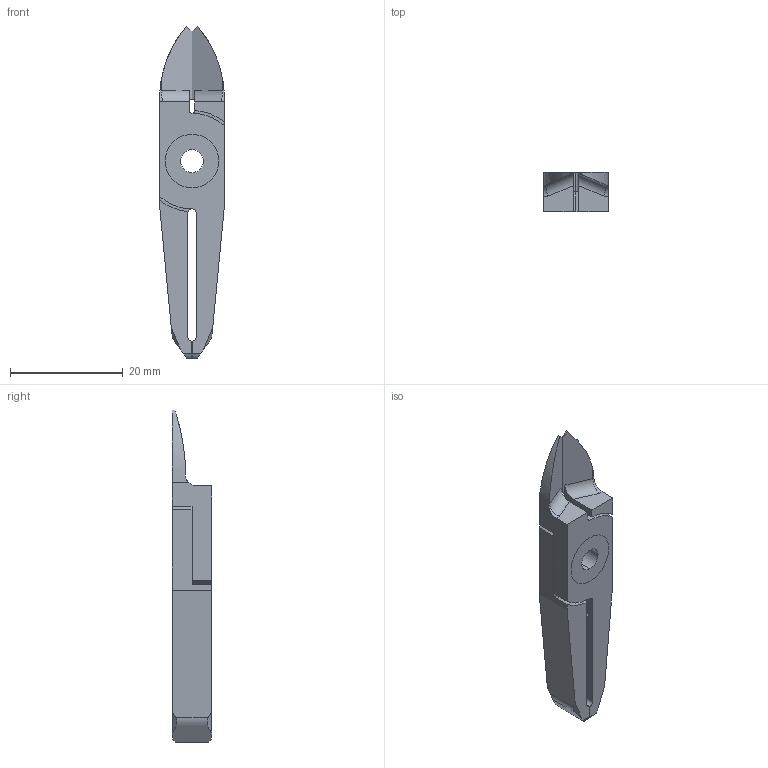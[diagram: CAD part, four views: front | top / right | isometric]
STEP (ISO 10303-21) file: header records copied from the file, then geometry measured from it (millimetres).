
FILE_DESCRIPTION (( 'STEP AP214' ), '1' );
FILE_NAME ('NT03AJT.STEP', '2019-11-28T09:18:34', ( '微软用户' ), ( '微软中国' ), 'SwSTEP 2.0', 'SolidWorks 2016', '' );
FILE_SCHEMA (( 'AUTOMOTIVE_DESIGN' ));
Length unit declared in the file: millimetre
Products named in the file (4): BR2; BR1; BS; NT03AJT
Assembly tree (3 placements, depth 2):
  NT03AJT
    BS
    BR1
    BR2
Bounding box: 11.5 x 7 x 59 mm (x, y, z)
Volume: 2780.7 mm3; surface area: 3165.5 mm2
Topology: 3 solids, 3 shells, 94 faces, 248 edges, 158 vertices
Faces by surface type: plane 38, cylinder 30, cone 16, bspline 10
Entity records: 3112 total; most frequent: CARTESIAN_POINT 688, ORIENTED_EDGE 488, DIRECTION 468, EDGE_CURVE 244, AXIS2_PLACEMENT_3D 162, VERTEX_POINT 158, VECTOR 144, LINE 144
